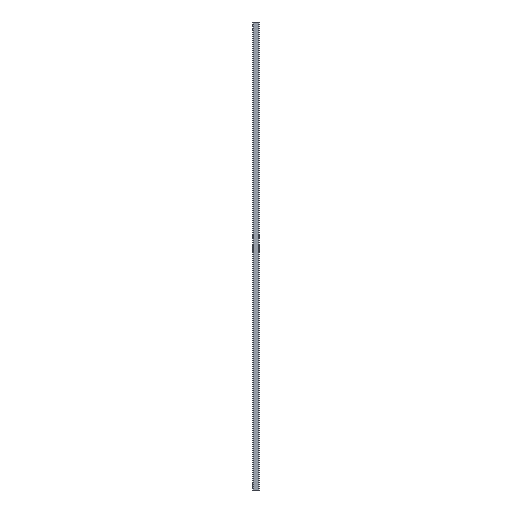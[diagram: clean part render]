
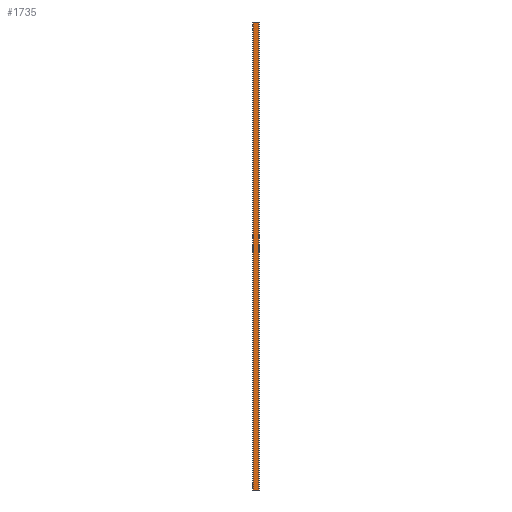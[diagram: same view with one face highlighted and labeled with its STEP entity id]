
A CAD part, left-side view. The second image highlights one B-rep face of the part: STEP entity #1735.
In plain terms, the highlighted planar face has unit normal (-1, 0, 0).
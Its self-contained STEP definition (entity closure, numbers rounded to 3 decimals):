
#79 = CARTESIAN_POINT ( 'NONE',  ( -8., 0., 879. ) ) ;
#95 = DIRECTION ( 'NONE',  ( 0., 1., 0. ) ) ;
#113 = LINE ( 'NONE', #373, #469 ) ;
#152 = VECTOR ( 'NONE', #1307, 1000. ) ;
#167 = ORIENTED_EDGE ( 'NONE', *, *, #1118, .T. ) ;
#171 = ORIENTED_EDGE ( 'NONE', *, *, #668, .F. ) ;
#196 = VERTEX_POINT ( 'NONE', #297 ) ;
#212 = ORIENTED_EDGE ( 'NONE', *, *, #1032, .T. ) ;
#240 = VECTOR ( 'NONE', #243, 1000. ) ;
#243 = DIRECTION ( 'NONE',  ( 0., 1., 0. ) ) ;
#248 = CARTESIAN_POINT ( 'NONE',  ( -8., 0., 879. ) ) ;
#275 = CARTESIAN_POINT ( 'NONE',  ( -8., 9.3, 0. ) ) ;
#297 = CARTESIAN_POINT ( 'NONE',  ( -8., 12.5, 0. ) ) ;
#302 = VECTOR ( 'NONE', #613, 1000. ) ;
#313 = VERTEX_POINT ( 'NONE', #1272 ) ;
#325 = VECTOR ( 'NONE', #95, 1000. ) ;
#373 = CARTESIAN_POINT ( 'NONE',  ( -8., 0., 0. ) ) ;
#381 = LINE ( 'NONE', #665, #240 ) ;
#401 = EDGE_CURVE ( 'NONE', #1340, #1576, #1580, .T. ) ;
#426 = VERTEX_POINT ( 'NONE', #1150 ) ;
#451 = CARTESIAN_POINT ( 'NONE',  ( -8., 0., 0. ) ) ;
#469 = VECTOR ( 'NONE', #911, 1000. ) ;
#524 = EDGE_CURVE ( 'NONE', #940, #1340, #782, .T. ) ;
#561 = VECTOR ( 'NONE', #1239, 1000. ) ;
#564 = VECTOR ( 'NONE', #1619, 1000. ) ;
#613 = DIRECTION ( 'NONE',  ( 0., 0., -1. ) ) ;
#665 = CARTESIAN_POINT ( 'NONE',  ( -8., 0., 879. ) ) ;
#668 = EDGE_CURVE ( 'NONE', #1220, #196, #1675, .T. ) ;
#699 = CARTESIAN_POINT ( 'NONE',  ( -8., 0., 0. ) ) ;
#768 = CARTESIAN_POINT ( 'NONE',  ( -8., 12.5, 879. ) ) ;
#782 = LINE ( 'NONE', #248, #1070 ) ;
#872 = ORIENTED_EDGE ( 'NONE', *, *, #1411, .F. ) ;
#911 = DIRECTION ( 'NONE',  ( 0., -1., 0. ) ) ;
#926 = DIRECTION ( 'NONE',  ( 0., -1., 0. ) ) ;
#928 = LINE ( 'NONE', #1062, #564 ) ;
#940 = VERTEX_POINT ( 'NONE', #1137 ) ;
#1020 = EDGE_LOOP ( 'NONE', ( #872, #212, #1561, #1042, #1395, #167, #1338, #171 ) ) ;
#1032 = EDGE_CURVE ( 'NONE', #1055, #1576, #113, .T. ) ;
#1042 = ORIENTED_EDGE ( 'NONE', *, *, #524, .F. ) ;
#1055 = VERTEX_POINT ( 'NONE', #1587 ) ;
#1062 = CARTESIAN_POINT ( 'NONE',  ( -8., 12.5, 879. ) ) ;
#1070 = VECTOR ( 'NONE', #926, 1000. ) ;
#1102 = FACE_OUTER_BOUND ( 'NONE', #1020, .T. ) ;
#1110 = CARTESIAN_POINT ( 'NONE',  ( -8., 0., 879. ) ) ;
#1118 = EDGE_CURVE ( 'NONE', #313, #426, #1597, .T. ) ;
#1137 = CARTESIAN_POINT ( 'NONE',  ( -8., 3.2, 879. ) ) ;
#1150 = CARTESIAN_POINT ( 'NONE',  ( -8., 12.5, 879. ) ) ;
#1220 = VERTEX_POINT ( 'NONE', #275 ) ;
#1239 = DIRECTION ( 'NONE',  ( 0., 1., 0. ) ) ;
#1242 = PLANE ( 'NONE',  #1622 ) ;
#1260 = DIRECTION ( 'NONE',  ( -1., 0., 0. ) ) ;
#1267 = CARTESIAN_POINT ( 'NONE',  ( -8., 0., 879. ) ) ;
#1272 = CARTESIAN_POINT ( 'NONE',  ( -8., 9.3, 879. ) ) ;
#1295 = EDGE_CURVE ( 'NONE', #940, #313, #381, .T. ) ;
#1307 = DIRECTION ( 'NONE',  ( 0., 1., 0. ) ) ;
#1310 = CARTESIAN_POINT ( 'NONE',  ( -8., 0., 0. ) ) ;
#1338 = ORIENTED_EDGE ( 'NONE', *, *, #1621, .T. ) ;
#1340 = VERTEX_POINT ( 'NONE', #1267 ) ;
#1395 = ORIENTED_EDGE ( 'NONE', *, *, #1295, .T. ) ;
#1411 = EDGE_CURVE ( 'NONE', #1055, #1220, #1447, .T. ) ;
#1447 = LINE ( 'NONE', #1310, #325 ) ;
#1561 = ORIENTED_EDGE ( 'NONE', *, *, #401, .F. ) ;
#1576 = VERTEX_POINT ( 'NONE', #699 ) ;
#1580 = LINE ( 'NONE', #79, #302 ) ;
#1587 = CARTESIAN_POINT ( 'NONE',  ( -8., 3.2, 0. ) ) ;
#1597 = LINE ( 'NONE', #768, #152 ) ;
#1619 = DIRECTION ( 'NONE',  ( 0., 0., -1. ) ) ;
#1621 = EDGE_CURVE ( 'NONE', #426, #196, #928, .T. ) ;
#1622 = AXIS2_PLACEMENT_3D ( 'NONE', #1110, #1260, #1658 ) ;
#1658 = DIRECTION ( 'NONE',  ( 0., 0., 1. ) ) ;
#1675 = LINE ( 'NONE', #451, #561 ) ;
#1735 = ADVANCED_FACE ( 'NONE', ( #1102 ), #1242, .T. ) ;
